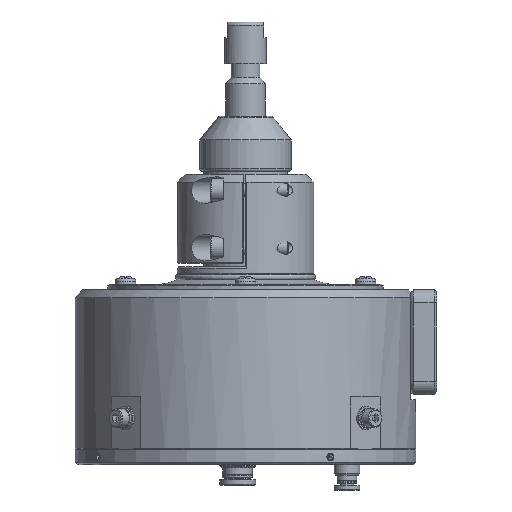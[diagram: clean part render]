
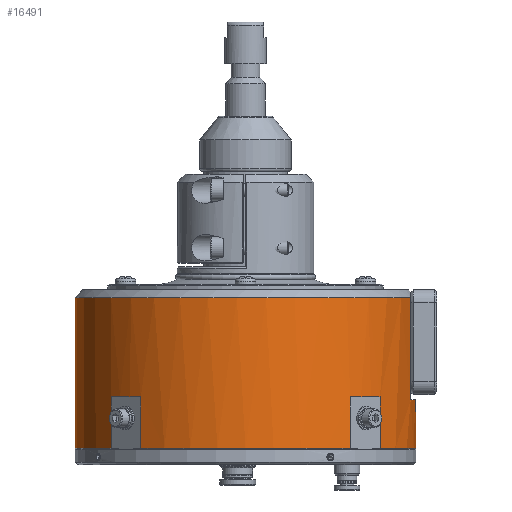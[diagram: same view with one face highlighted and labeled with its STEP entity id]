
A CAD part, left-side view. The second image highlights one B-rep face of the part: STEP entity #16491.
In plain terms, the highlighted cylindrical face has radius 65 mm (diameter 130 mm), a full revolution.
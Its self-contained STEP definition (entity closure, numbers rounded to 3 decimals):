
#928=LINE('',#24901,#1900);
#929=LINE('',#24907,#1901);
#943=LINE('',#24976,#1915);
#944=LINE('',#24985,#1916);
#948=LINE('',#25001,#1920);
#949=LINE('',#25010,#1921);
#953=LINE('',#25026,#1925);
#954=LINE('',#25035,#1926);
#957=LINE('',#25048,#1929);
#958=LINE('',#25052,#1930);
#959=LINE('',#25058,#1931);
#1900=VECTOR('',#19950,10.);
#1901=VECTOR('',#19951,10.);
#1915=VECTOR('',#20031,10.);
#1916=VECTOR('',#20032,10.);
#1920=VECTOR('',#20046,10.);
#1921=VECTOR('',#20047,10.);
#1925=VECTOR('',#20061,10.);
#1926=VECTOR('',#20062,10.);
#1929=VECTOR('',#20073,10.);
#1930=VECTOR('',#20076,10.);
#1931=VECTOR('',#20083,65.);
#2771=CYLINDRICAL_SURFACE('',#17685,65.);
#3281=FACE_OUTER_BOUND('',#4331,.T.);
#4331=EDGE_LOOP('',(#10706,#10707,#10708,#10709,#10710,#10711,#10712,#10713,
#10714,#10715,#10716,#10717,#10718,#10719,#10720,#10721,#10722,#10723,#10724,
#10725,#10726,#10727,#10728,#10729));
#5510=CIRCLE('',#17671,65.);
#5513=CIRCLE('',#17676,65.);
#5516=CIRCLE('',#17681,65.);
#5519=CIRCLE('',#17686,65.);
#5520=CIRCLE('',#17687,65.);
#5521=CIRCLE('',#17688,65.);
#5522=CIRCLE('',#17689,65.);
#5523=CIRCLE('',#17690,65.);
#5524=CIRCLE('',#17691,65.);
#5525=CIRCLE('',#17692,65.);
#5526=CIRCLE('',#17693,65.);
#5527=CIRCLE('',#17694,65.);
#6463=VERTEX_POINT('',#24899);
#6464=VERTEX_POINT('',#24900);
#6465=VERTEX_POINT('',#24902);
#6466=VERTEX_POINT('',#24906);
#6486=VERTEX_POINT('',#24970);
#6487=VERTEX_POINT('',#24971);
#6488=VERTEX_POINT('',#24975);
#6490=VERTEX_POINT('',#24981);
#6495=VERTEX_POINT('',#24995);
#6496=VERTEX_POINT('',#24996);
#6497=VERTEX_POINT('',#25000);
#6499=VERTEX_POINT('',#25006);
#6504=VERTEX_POINT('',#25020);
#6505=VERTEX_POINT('',#25021);
#6506=VERTEX_POINT('',#25025);
#6508=VERTEX_POINT('',#25031);
#6513=VERTEX_POINT('',#25045);
#6514=VERTEX_POINT('',#25047);
#6515=VERTEX_POINT('',#25049);
#6516=VERTEX_POINT('',#25051);
#6517=VERTEX_POINT('',#25055);
#6518=VERTEX_POINT('',#25057);
#8063=EDGE_CURVE('',#6463,#6464,#928,.T.);
#8065=EDGE_CURVE('',#6466,#6465,#929,.T.);
#8097=EDGE_CURVE('',#6486,#6487,#5510,.T.);
#8099=EDGE_CURVE('',#6488,#6486,#943,.T.);
#8102=EDGE_CURVE('',#6487,#6490,#944,.T.);
#8107=EDGE_CURVE('',#6495,#6496,#5513,.T.);
#8109=EDGE_CURVE('',#6497,#6495,#948,.T.);
#8112=EDGE_CURVE('',#6496,#6499,#949,.T.);
#8117=EDGE_CURVE('',#6504,#6505,#5516,.T.);
#8119=EDGE_CURVE('',#6506,#6504,#953,.T.);
#8122=EDGE_CURVE('',#6505,#6508,#954,.T.);
#8127=EDGE_CURVE('',#6513,#6490,#5519,.T.);
#8128=EDGE_CURVE('',#6513,#6514,#957,.T.);
#8129=EDGE_CURVE('',#6514,#6515,#5520,.T.);
#8130=EDGE_CURVE('',#6515,#6516,#958,.T.);
#8131=EDGE_CURVE('',#6506,#6516,#5521,.T.);
#8132=EDGE_CURVE('',#6497,#6508,#5522,.T.);
#8133=EDGE_CURVE('',#6517,#6499,#5523,.T.);
#8134=EDGE_CURVE('',#6517,#6518,#959,.T.);
#8135=EDGE_CURVE('',#6463,#6518,#5524,.T.);
#8136=EDGE_CURVE('',#6464,#6466,#5525,.T.);
#8137=EDGE_CURVE('',#6518,#6465,#5526,.T.);
#8138=EDGE_CURVE('',#6488,#6517,#5527,.T.);
#10706=ORIENTED_EDGE('',*,*,#8099,.T.);
#10707=ORIENTED_EDGE('',*,*,#8097,.T.);
#10708=ORIENTED_EDGE('',*,*,#8102,.T.);
#10709=ORIENTED_EDGE('',*,*,#8127,.F.);
#10710=ORIENTED_EDGE('',*,*,#8128,.T.);
#10711=ORIENTED_EDGE('',*,*,#8129,.T.);
#10712=ORIENTED_EDGE('',*,*,#8130,.T.);
#10713=ORIENTED_EDGE('',*,*,#8131,.F.);
#10714=ORIENTED_EDGE('',*,*,#8119,.T.);
#10715=ORIENTED_EDGE('',*,*,#8117,.T.);
#10716=ORIENTED_EDGE('',*,*,#8122,.T.);
#10717=ORIENTED_EDGE('',*,*,#8132,.F.);
#10718=ORIENTED_EDGE('',*,*,#8109,.T.);
#10719=ORIENTED_EDGE('',*,*,#8107,.T.);
#10720=ORIENTED_EDGE('',*,*,#8112,.T.);
#10721=ORIENTED_EDGE('',*,*,#8133,.F.);
#10722=ORIENTED_EDGE('',*,*,#8134,.T.);
#10723=ORIENTED_EDGE('',*,*,#8135,.F.);
#10724=ORIENTED_EDGE('',*,*,#8063,.T.);
#10725=ORIENTED_EDGE('',*,*,#8136,.T.);
#10726=ORIENTED_EDGE('',*,*,#8065,.T.);
#10727=ORIENTED_EDGE('',*,*,#8137,.F.);
#10728=ORIENTED_EDGE('',*,*,#8134,.F.);
#10729=ORIENTED_EDGE('',*,*,#8138,.F.);
#16491=ADVANCED_FACE('',(#3281),#2771,.T.);
#17671=AXIS2_PLACEMENT_3D('',#24972,#20026,#20027);
#17676=AXIS2_PLACEMENT_3D('',#24997,#20041,#20042);
#17681=AXIS2_PLACEMENT_3D('',#25022,#20056,#20057);
#17685=AXIS2_PLACEMENT_3D('',#25044,#20069,#20070);
#17686=AXIS2_PLACEMENT_3D('',#25046,#20071,#20072);
#17687=AXIS2_PLACEMENT_3D('',#25050,#20074,#20075);
#17688=AXIS2_PLACEMENT_3D('',#25053,#20077,#20078);
#17689=AXIS2_PLACEMENT_3D('',#25054,#20079,#20080);
#17690=AXIS2_PLACEMENT_3D('',#25056,#20081,#20082);
#17691=AXIS2_PLACEMENT_3D('',#25059,#20084,#20085);
#17692=AXIS2_PLACEMENT_3D('',#25060,#20086,#20087);
#17693=AXIS2_PLACEMENT_3D('',#25061,#20088,#20089);
#17694=AXIS2_PLACEMENT_3D('',#25062,#20090,#20091);
#19950=DIRECTION('',(0.,0.,-1.));
#19951=DIRECTION('',(0.,0.,1.));
#20026=DIRECTION('center_axis',(0.,0.,
1.));
#20027=DIRECTION('ref_axis',(-1.,0.,0.));
#20031=DIRECTION('',(0.,0.,1.));
#20032=DIRECTION('',(0.,0.,-1.));
#20041=DIRECTION('center_axis',(0.,0.,
1.));
#20042=DIRECTION('ref_axis',(-1.,0.,0.));
#20046=DIRECTION('',(0.,0.,1.));
#20047=DIRECTION('',(0.,0.,-1.));
#20056=DIRECTION('center_axis',(0.,0.,
1.));
#20057=DIRECTION('ref_axis',(-1.,0.,0.));
#20061=DIRECTION('',(0.,0.,1.));
#20062=DIRECTION('',(0.,0.,-1.));
#20069=DIRECTION('center_axis',(0.,0.,
-1.));
#20070=DIRECTION('ref_axis',(-1.,0.,0.));
#20071=DIRECTION('center_axis',(0.,0.,
-1.));
#20072=DIRECTION('ref_axis',(1.,0.,0.));
#20073=DIRECTION('',(0.,0.,1.));
#20074=DIRECTION('center_axis',(0.,0.,
1.));
#20075=DIRECTION('ref_axis',(-1.,0.,0.));
#20076=DIRECTION('',(0.,0.,-1.));
#20077=DIRECTION('center_axis',(0.,0.,
-1.));
#20078=DIRECTION('ref_axis',(1.,0.,0.));
#20079=DIRECTION('center_axis',(0.,0.,
-1.));
#20080=DIRECTION('ref_axis',(1.,0.,0.));
#20081=DIRECTION('center_axis',(0.,0.,
-1.));
#20082=DIRECTION('ref_axis',(1.,0.,0.));
#20083=DIRECTION('',(0.,0.,1.));
#20084=DIRECTION('center_axis',(0.,0.,
1.));
#20085=DIRECTION('ref_axis',(-1.,0.,0.));
#20086=DIRECTION('center_axis',(0.,0.,
-1.));
#20087=DIRECTION('ref_axis',(-1.,0.,0.));
#20088=DIRECTION('center_axis',(0.,0.,
1.));
#20089=DIRECTION('ref_axis',(-1.,0.,0.));
#20090=DIRECTION('center_axis',(0.,0.,
-1.));
#20091=DIRECTION('ref_axis',(1.,0.,0.));
#24899=CARTESIAN_POINT('',(16.,-63.,12.));
#24900=CARTESIAN_POINT('',(16.,-63.,-27.));
#24901=CARTESIAN_POINT('',(16.,-63.,15.));
#24902=CARTESIAN_POINT('',(-16.,-63.,12.));
#24906=CARTESIAN_POINT('',(-16.,-63.,-27.));
#24907=CARTESIAN_POINT('',(-16.,-63.,15.));
#24970=CARTESIAN_POINT('',(51.298,39.918,-25.9));
#24971=CARTESIAN_POINT('',(39.918,51.298,-25.9));
#24972=CARTESIAN_POINT('Origin',(0.,0.,
-25.9));
#24975=CARTESIAN_POINT('',(51.298,39.918,-45.5));
#24976=CARTESIAN_POINT('',(51.298,39.918,15.));
#24981=CARTESIAN_POINT('',(39.918,51.298,-45.5));
#24985=CARTESIAN_POINT('',(39.918,51.298,15.));
#24995=CARTESIAN_POINT('',(39.918,-51.298,-25.9));
#24996=CARTESIAN_POINT('',(51.298,-39.918,-25.9));
#24997=CARTESIAN_POINT('Origin',(0.,0.,
-25.9));
#25000=CARTESIAN_POINT('',(39.918,-51.298,-45.5));
#25001=CARTESIAN_POINT('',(39.918,-51.298,15.));
#25006=CARTESIAN_POINT('',(51.298,-39.918,-45.5));
#25010=CARTESIAN_POINT('',(51.298,-39.918,15.));
#25020=CARTESIAN_POINT('',(-51.298,-39.918,-25.9));
#25021=CARTESIAN_POINT('',(-39.918,-51.298,-25.9));
#25022=CARTESIAN_POINT('Origin',(0.,0.,
-25.9));
#25025=CARTESIAN_POINT('',(-51.298,-39.918,-45.5));
#25026=CARTESIAN_POINT('',(-51.298,-39.918,15.));
#25031=CARTESIAN_POINT('',(-39.918,-51.298,-45.5));
#25035=CARTESIAN_POINT('',(-39.918,-51.298,15.));
#25044=CARTESIAN_POINT('Origin',(0.,0.,
15.));
#25045=CARTESIAN_POINT('',(-39.918,51.298,-45.5));
#25046=CARTESIAN_POINT('Origin',(0.,0.,
-45.5));
#25047=CARTESIAN_POINT('',(-39.918,51.298,-25.9));
#25048=CARTESIAN_POINT('',(-39.918,51.298,15.));
#25049=CARTESIAN_POINT('',(-51.298,39.918,-25.9));
#25050=CARTESIAN_POINT('Origin',(0.,0.,
-25.9));
#25051=CARTESIAN_POINT('',(-51.298,39.918,-45.5));
#25052=CARTESIAN_POINT('',(-51.298,39.918,15.));
#25053=CARTESIAN_POINT('Origin',(0.,0.,
-45.5));
#25054=CARTESIAN_POINT('Origin',(0.,0.,
-45.5));
#25055=CARTESIAN_POINT('',(65.,0.,-45.5));
#25056=CARTESIAN_POINT('Origin',(0.,0.,
-45.5));
#25057=CARTESIAN_POINT('',(65.,0.,12.));
#25058=CARTESIAN_POINT('',(65.,0.,15.));
#25059=CARTESIAN_POINT('Origin',(0.,0.,
12.));
#25060=CARTESIAN_POINT('Origin',(0.,0.,
-27.));
#25061=CARTESIAN_POINT('Origin',(0.,0.,
12.));
#25062=CARTESIAN_POINT('Origin',(0.,0.,
-45.5));
